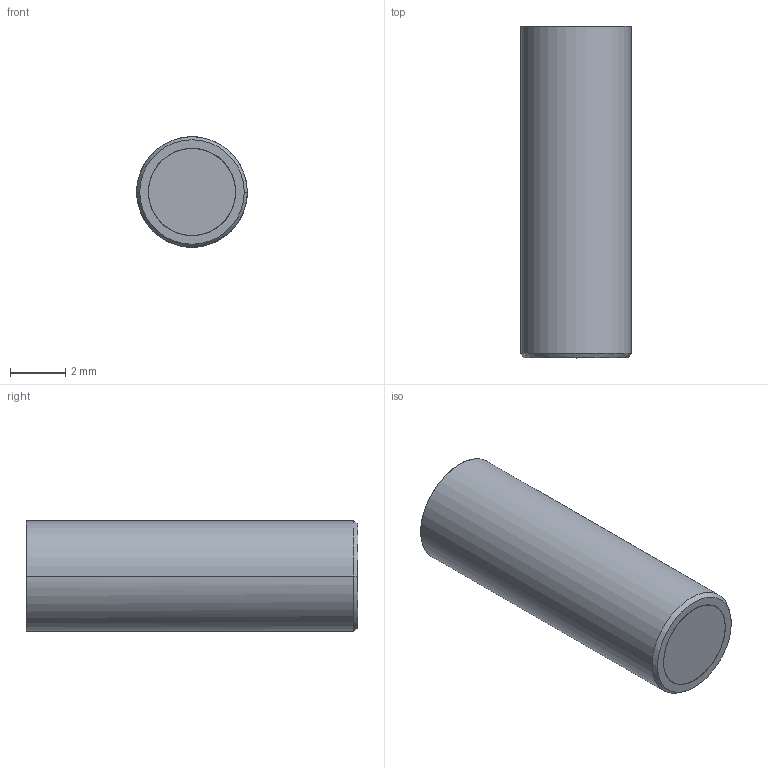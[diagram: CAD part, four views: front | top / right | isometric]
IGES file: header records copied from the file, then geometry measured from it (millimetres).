
Start section: START RECORD GO HERE.
Global section: file name: fa042204-20.igs; native system: DASSAULT SYSTEMES CATIA V5 R20 - www.3ds.com; preprocessor: CATIA Version 5 Release 20 ; author: Utente; organization: NB04-ASUS; date: 20201108.084038; units: millimetre
Bounding box: 4 x 12 x 4 mm (x, y, z)
Surface area: 503.4 mm2 (no closed solid volume)
Topology: 0 solids, 0 shells, 407 faces, 1812 edges, 1808 vertices
Faces by surface type: bspline 216, revolution 114, plane 77
